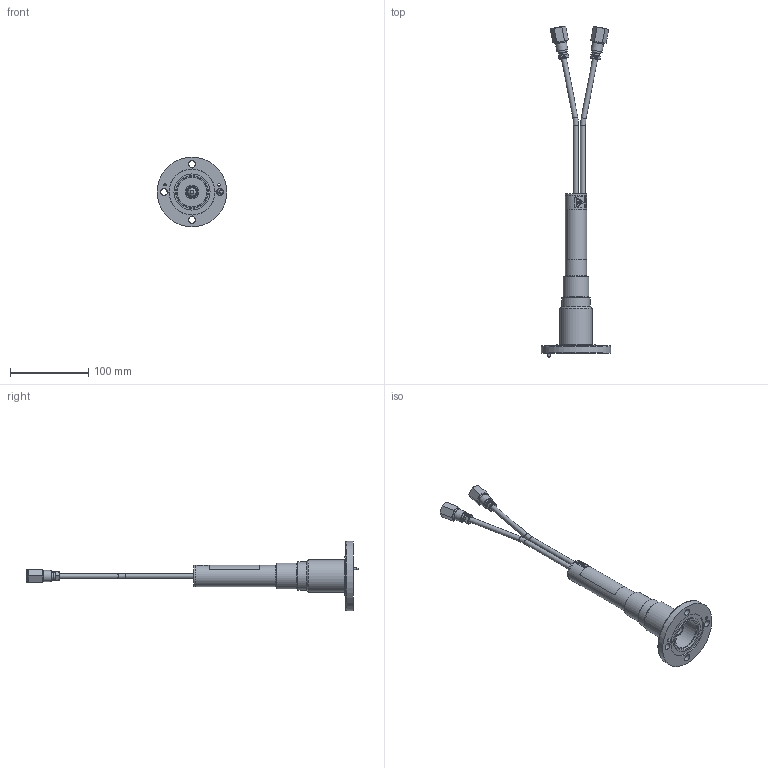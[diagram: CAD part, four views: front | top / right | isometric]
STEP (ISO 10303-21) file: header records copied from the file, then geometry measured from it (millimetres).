
FILE_DESCRIPTION(/* description */ (''),/* implementation_level */ '2;1');
FILE_NAME(/* name */ '8720_RevM_3DSTP',/* time_stamp */ '2017-09-01T11:32:42-04:00',/* author */ ('John Winter'),/* organization */ ('Bird'),/* preprocessor_version */ 'ST-DEVELOPER v16.7',/* originating_system */ 'DEX',/* authorisation */ $);
FILE_SCHEMA (('AUTOMOTIVE_DESIGN {1 0 10303 214 3 1 1}'));
Length unit declared in the file: inch
Products named in the file (1): 8720_REV_M
Bounding box: 88.9 x 424.24 x 88.9 mm (x, y, z)
Volume: 175168.9 mm3; surface area: 72368.9 mm2
Topology: 4 solids, 7 shells, 511 faces, 1292 edges, 848 vertices
Faces by surface type: plane 225, cylinder 164, bspline 57, cone 54, torus 10, sphere 1
Full cylindrical faces by diameter (mm): 3.048 x1, 3.277 x1, 4.775 x2, 4.826 x4, 6.35 x5, 6.477 x2, 6.604 x1, 7.366 x1, 7.493 x1, 8.712 x4, 9.55 x2, 11.1 x1, 11.112 x2, 11.199 x2, 14.224 x2, 14.3 x1, 14.961 x1, 16.866 x1, 26.975 x1, 26.987 x1, 32.512 x1, 33.02 x1, 33.398 x2, 36.703 x1, 37.719 x1, 38.735 x1, 38.786 x1, 41.275 x1, 41.377 x1, 41.834 x1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
Entity records: 18405 total; most frequent: CARTESIAN_POINT 4966, ORIENTED_EDGE 2348, DIRECTION 2168, EDGE_CURVE 1174, VERTEX_POINT 814, AXIS2_PLACEMENT_3D 813, FACE_BOUND 666, EDGE_LOOP 665
